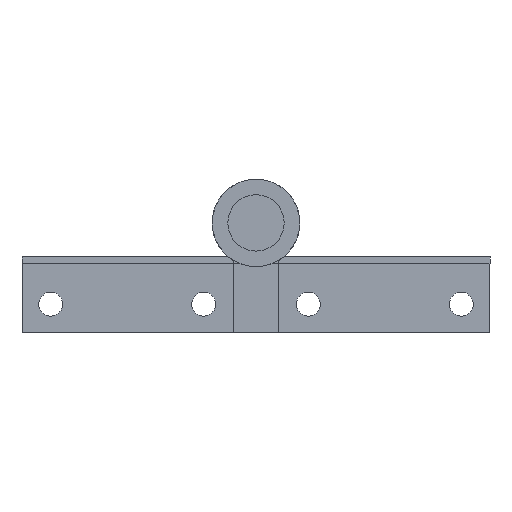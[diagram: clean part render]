
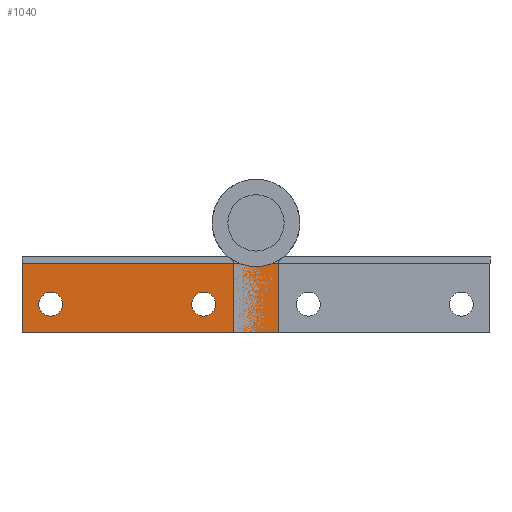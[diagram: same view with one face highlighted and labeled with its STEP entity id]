
A CAD part, front view. The second image highlights one B-rep face of the part: STEP entity #1040.
In plain terms, the highlighted planar face has unit normal (0, -1, 0).
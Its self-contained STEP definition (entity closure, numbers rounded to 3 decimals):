
#99 = EDGE_LOOP ( 'NONE', ( #1764, #1765 ) ) ;
#101 = EDGE_LOOP ( 'NONE', ( #1766, #1767 ) ) ;
#102 = EDGE_LOOP ( 'NONE', ( #1768, #1769, #1770, #1771 ) ) ;
#150 = CARTESIAN_POINT ( 'NONE',  ( 9.15, 483.2, -23. ) ) ;
#160 = PLANE ( 'NONE',  #1905 ) ;
#192 = VERTEX_POINT ( 'NONE', #317 ) ;
#215 = CARTESIAN_POINT ( 'NONE',  ( -48.95, 483.2, -8.5 ) ) ;
#217 = CARTESIAN_POINT ( 'NONE',  ( -48.95, 483.2, -23. ) ) ;
#230 = CARTESIAN_POINT ( 'NONE',  ( -8.45, 483.2, -17. ) ) ;
#239 = CARTESIAN_POINT ( 'NONE',  ( -40.45, 483.2, -17. ) ) ;
#242 = CARTESIAN_POINT ( 'NONE',  ( -45.45, 483.2, -17. ) ) ;
#290 = CARTESIAN_POINT ( 'NONE',  ( 4.75, 483.2, -23. ) ) ;
#294 = CARTESIAN_POINT ( 'NONE',  ( 4.75, 483.2, -8.5 ) ) ;
#317 = CARTESIAN_POINT ( 'NONE',  ( -13.45, 483.2, -17. ) ) ;
#347 = VERTEX_POINT ( 'NONE', #294 ) ;
#351 = VERTEX_POINT ( 'NONE', #290 ) ;
#399 = VERTEX_POINT ( 'NONE', #242 ) ;
#402 = VERTEX_POINT ( 'NONE', #239 ) ;
#411 = VERTEX_POINT ( 'NONE', #230 ) ;
#424 = VERTEX_POINT ( 'NONE', #217 ) ;
#426 = VERTEX_POINT ( 'NONE', #215 ) ;
#640 = CARTESIAN_POINT ( 'NONE',  ( 9.15, 483.2, -23. ) ) ;
#643 = DIRECTION ( 'NONE',  ( -1., 0., 0. ) ) ;
#644 = CARTESIAN_POINT ( 'NONE',  ( -42.95, 483.2, -17. ) ) ;
#645 = DIRECTION ( 'NONE',  ( 0., 1., 0. ) ) ;
#646 = DIRECTION ( 'NONE',  ( 1., 0., 0. ) ) ;
#679 = CARTESIAN_POINT ( 'NONE',  ( -48.95, 483.2, -23. ) ) ;
#683 = DIRECTION ( 'NONE',  ( 0., 0., -1. ) ) ;
#717 = CARTESIAN_POINT ( 'NONE',  ( 4.75, 483.2, -23. ) ) ;
#723 = DIRECTION ( 'NONE',  ( 0., 0., -1. ) ) ;
#735 = CARTESIAN_POINT ( 'NONE',  ( 9.15, 483.2, -8.5 ) ) ;
#738 = DIRECTION ( 'NONE',  ( -1., 0., 0. ) ) ;
#805 = CARTESIAN_POINT ( 'NONE',  ( -10.95, 483.2, -17. ) ) ;
#811 = DIRECTION ( 'NONE',  ( 0., 1., 0. ) ) ;
#812 = DIRECTION ( 'NONE',  ( 1., 0., 0. ) ) ;
#900 = CARTESIAN_POINT ( 'NONE',  ( -42.95, 483.2, -17. ) ) ;
#909 = DIRECTION ( 'NONE',  ( 0., 1., 0. ) ) ;
#910 = DIRECTION ( 'NONE',  ( 1., 0., 0. ) ) ;
#938 = CARTESIAN_POINT ( 'NONE',  ( -10.95, 483.2, -17. ) ) ;
#955 = DIRECTION ( 'NONE',  ( 0., 1., 0. ) ) ;
#956 = DIRECTION ( 'NONE',  ( 1., 0., 0. ) ) ;
#1040 = ADVANCED_FACE ( 'NONE', ( #1596, #1592, #1590 ), #160, .F. ) ;
#1118 = EDGE_CURVE ( 'NONE', #351, #424, #1451, .T. ) ;
#1119 = EDGE_CURVE ( 'NONE', #399, #402, #1439, .T. ) ;
#1132 = EDGE_CURVE ( 'NONE', #426, #424, #1428, .T. ) ;
#1148 = EDGE_CURVE ( 'NONE', #347, #351, #1395, .T. ) ;
#1154 = EDGE_CURVE ( 'NONE', #347, #426, #1388, .T. ) ;
#1191 = CIRCLE ( 'NONE', #2046, 2.5 ) ;
#1235 = CIRCLE ( 'NONE', #1868, 2.5 ) ;
#1320 = CIRCLE ( 'NONE', #2021, 2.5 ) ;
#1383 = VECTOR ( 'NONE', #738, 1000. ) ;
#1388 = LINE ( 'NONE', #735, #1383 ) ;
#1395 = LINE ( 'NONE', #717, #1411 ) ;
#1411 = VECTOR ( 'NONE', #723, 1000. ) ;
#1423 = VECTOR ( 'NONE', #683, 1000. ) ;
#1428 = LINE ( 'NONE', #679, #1423 ) ;
#1439 = CIRCLE ( 'NONE', #1925, 2.5 ) ;
#1443 = VECTOR ( 'NONE', #643, 1000. ) ;
#1451 = LINE ( 'NONE', #640, #1443 ) ;
#1590 = FACE_OUTER_BOUND ( 'NONE', #102, .T. ) ;
#1592 = FACE_BOUND ( 'NONE', #101, .T. ) ;
#1596 = FACE_BOUND ( 'NONE', #99, .T. ) ;
#1764 = ORIENTED_EDGE ( 'NONE', *, *, #2062, .T. ) ;
#1765 = ORIENTED_EDGE ( 'NONE', *, *, #1917, .T. ) ;
#1766 = ORIENTED_EDGE ( 'NONE', *, *, #1119, .T. ) ;
#1767 = ORIENTED_EDGE ( 'NONE', *, *, #2013, .T. ) ;
#1768 = ORIENTED_EDGE ( 'NONE', *, *, #1154, .T. ) ;
#1769 = ORIENTED_EDGE ( 'NONE', *, *, #1132, .T. ) ;
#1770 = ORIENTED_EDGE ( 'NONE', *, *, #1118, .F. ) ;
#1771 = ORIENTED_EDGE ( 'NONE', *, *, #1148, .F. ) ;
#1868 = AXIS2_PLACEMENT_3D ( 'NONE', #900, #909, #910 ) ;
#1905 = AXIS2_PLACEMENT_3D ( 'NONE', #150, #2108, #2109 ) ;
#1917 = EDGE_CURVE ( 'NONE', #411, #192, #1320, .T. ) ;
#1925 = AXIS2_PLACEMENT_3D ( 'NONE', #644, #645, #646 ) ;
#2013 = EDGE_CURVE ( 'NONE', #402, #399, #1235, .T. ) ;
#2021 = AXIS2_PLACEMENT_3D ( 'NONE', #805, #811, #812 ) ;
#2046 = AXIS2_PLACEMENT_3D ( 'NONE', #938, #955, #956 ) ;
#2062 = EDGE_CURVE ( 'NONE', #192, #411, #1191, .T. ) ;
#2108 = DIRECTION ( 'NONE',  ( 0., 1., 0. ) ) ;
#2109 = DIRECTION ( 'NONE',  ( 1., 0., 0. ) ) ;
